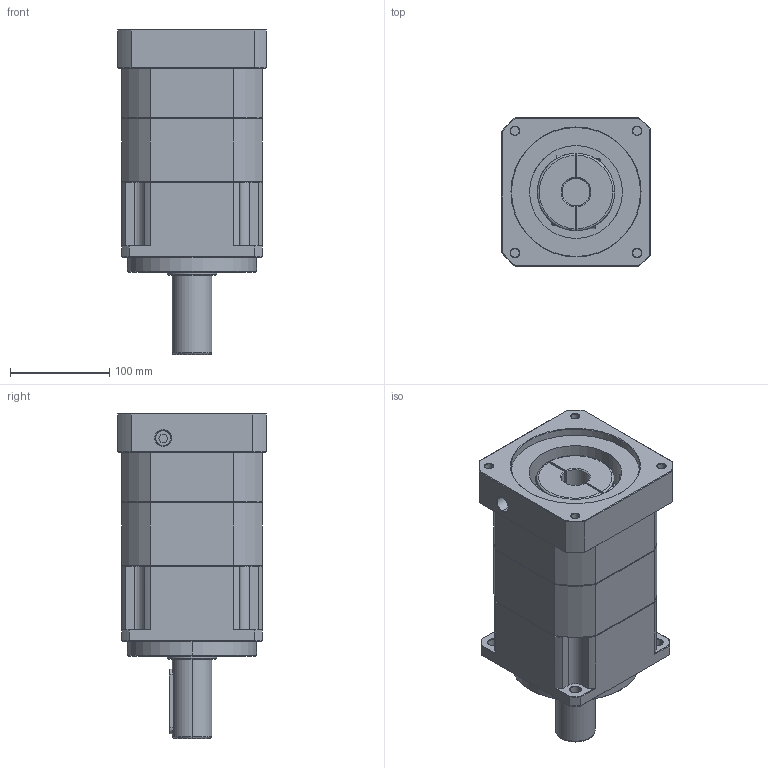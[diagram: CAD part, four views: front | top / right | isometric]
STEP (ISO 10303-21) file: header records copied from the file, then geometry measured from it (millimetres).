
FILE_DESCRIPTION (( 'STEP AP214' ), '1' );
FILE_NAME ('ZPB142-L2-P1-S2-28-130-174-M10.step', '2024-07-05T00:18:33', ( 'Windows 蚚誧' ), ( 'Organization' ), 'SwSTEP 2.0', 'SolidWorks 2016', '' );
FILE_SCHEMA (( 'AUTOMOTIVE_DESIGN' ));
Length unit declared in the file: millimetre
Products named in the file (1): ZPB142-L2-P1-S2-28-130-174-M10
Bounding box: 150 x 150 x 327.5 mm (x, y, z)
Surface area: 239680.8 mm2 (no closed solid volume)
Topology: 0 solids, 37 shells, 1793 faces, 4772 edges, 3054 vertices
Faces by surface type: plane 924, bspline 383, cone 271, cylinder 215
Full cylindrical faces by diameter (mm): 14 x1
Entity records: 100758 total; most frequent: CARTESIAN_POINT 50646, ORIENTED_EDGE 9519, DIRECTION 7320, EDGE_CURVE 4771, VECTOR 3158, LINE 3158, VERTEX_POINT 3054, AXIS2_PLACEMENT_3D 2081
